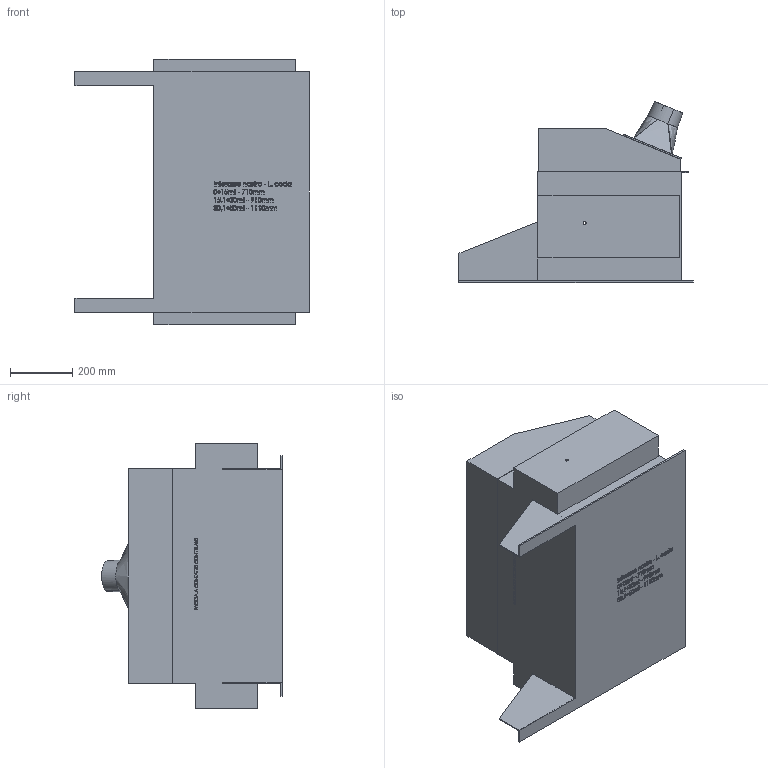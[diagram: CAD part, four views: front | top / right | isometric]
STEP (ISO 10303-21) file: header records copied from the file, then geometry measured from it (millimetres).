
FILE_DESCRIPTION (( 'STEP AP203' ), '1' );
FILE_NAME ('30758.step', '2019-03-14T14:32:07', ( 'PC' ), ( 'Hewlett-Packard Company' ), 'SwSTEP 2.0', 'SolidWorks 2016', '' );
FILE_SCHEMA (( 'CONFIG_CONTROL_DESIGN' ));
Length unit declared in the file: millimetre
Products named in the file (1): 30758
Bounding box: 750 x 579.38 x 850 mm (x, y, z)
Volume: 162906087.9 mm3; surface area: 3198806 mm2
Topology: 3 solids, 3 shells, 1165 faces, 3095 edges, 2057 vertices
Faces by surface type: plane 700, bspline 443, cylinder 20, cone 2
Entity records: 64426 total; most frequent: CARTESIAN_POINT 38359, ORIENTED_EDGE 6186, DIRECTION 3689, EDGE_CURVE 3093, LINE 2163, VECTOR 2163, VERTEX_POINT 2057, EDGE_LOOP 1304
